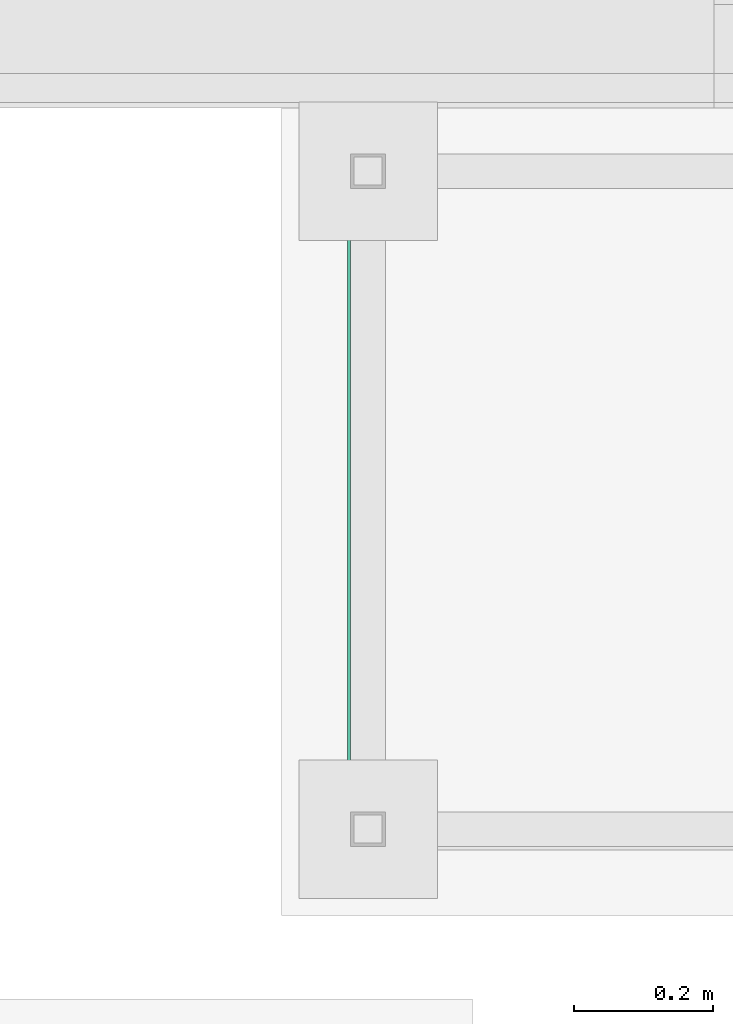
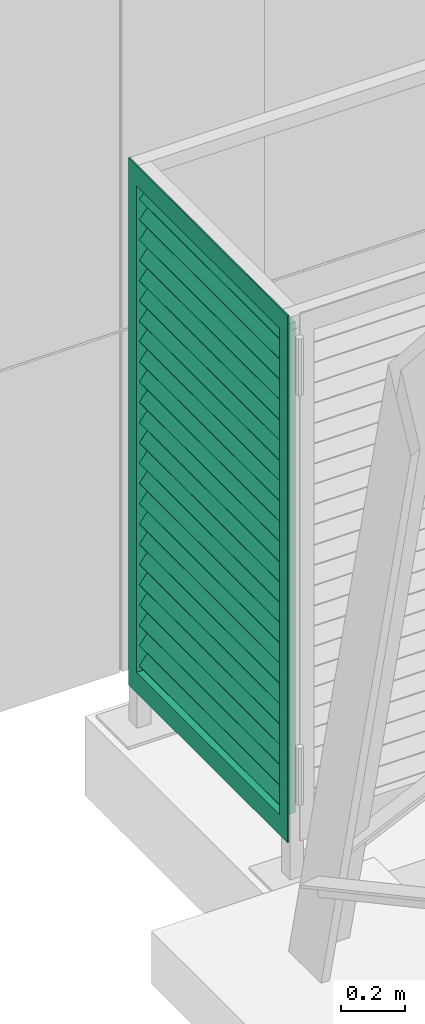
# One storey, part 185 of 418: 1 distribution flow element.
"""IFC2X3 building model written with IfcOpenShell, lengths in millimetres."""

import ifcopenshell
import ifcopenshell.guid

model = None  # the IFC model being written
_history = None  # IfcOwnerHistory: only IFC2X3 demands one
_inside = {}  # id of a spatial element -> (the spatial element, [elements in it])
_under = {}  # id of a project, library or spatial element -> (it, [spatial elements below it])
_declared = {}  # id of a project -> (the project, [libraries it declares])
_typed = {}  # id of a type object -> (the type object, [elements of that type])
_made_of = {}  # id of a material, layer set ... -> (it, [elements and type objects made of it])


def new_model(schema):
    """Start an empty IFC model of exactly this schema.

    Asked for "IFC4X3", IfcOpenShell would pick the latest addendum, in which some entities
    have other attributes; the version numbers below select the first issue.
    IFC2X3 requires an IfcOwnerHistory on every rooted entity: one is made here for all.
    """
    global model, _history
    if schema == "IFC4X3":
        model = ifcopenshell.file(schema_version=(4, 3, 0, 0))
    else:
        model = ifcopenshell.file(schema=schema)
    _inside.clear()
    _under.clear()
    _declared.clear()
    _typed.clear()
    _made_of.clear()
    _history = None
    if model.schema == "IFC2X3":
        org = make("IfcOrganization", Name="unknown")
        user = make(
            "IfcPersonAndOrganization",
            ThePerson=make("IfcPerson", FamilyName="unknown"),
            TheOrganization=org,
        )
        app = make(
            "IfcApplication",
            ApplicationDeveloper=org,
            Version="unknown",
            ApplicationFullName="unknown",
            ApplicationIdentifier="unknown",
        )
        _history = make(
            "IfcOwnerHistory",
            OwningUser=user,
            OwningApplication=app,
            ChangeAction="ADDED",
            CreationDate=0,
        )
    return model


def make(cls, **values):
    """One entity of the class cls with the attributes given. An attribute that is None is left unset."""
    return model.create_entity(
        cls, **{name: value for name, value in values.items() if value is not None}
    )


def entity(cls, *values):
    """Any entity or typed value of the class cls, its attributes in the order of the schema. None: left unset."""
    e = model.create_entity(cls)
    for i, value in enumerate(values):
        if value is not None:
            e[i] = value
    return e


def rooted(cls, **values):
    """An entity with a GlobalId (a new one), such as an element, a storey or a relation."""
    return make(cls, GlobalId=ifcopenshell.guid.new(), OwnerHistory=_history, **values)


def si_unit(unit_type, name, prefix=None):
    """IfcSIUnit, for example si_unit("LENGTHUNIT", "METRE", prefix="MILLI")."""
    return make("IfcSIUnit", UnitType=unit_type, Prefix=prefix, Name=name)


def converted_unit(unit_type, name, factor, base, dimensions=None, offset=None):
    """IfcConversionBasedUnit, such as the inch: factor (a typed value) times the base unit."""
    return make(
        "IfcConversionBasedUnit"
        if offset is None
        else "IfcConversionBasedUnitWithOffset",
        ConversionOffset=offset,
        Dimensions=None
        if dimensions is None
        else entity("IfcDimensionalExponents", *dimensions),
        UnitType=unit_type,
        Name=name,
        ConversionFactor=make(
            "IfcMeasureWithUnit", ValueComponent=factor, UnitComponent=base
        ),
    )


def derived_unit(unit_type, elements):
    """IfcDerivedUnit: a product of units, each with its exponent."""
    return make(
        "IfcDerivedUnit",
        Elements=[
            make("IfcDerivedUnitElement", Unit=unit, Exponent=power)
            for unit, power in elements
        ],
        UnitType=unit_type,
    )


def money_unit(currency):
    """IfcMonetaryUnit."""
    return make("IfcMonetaryUnit", Currency=currency)


def assignment(units):
    """IfcUnitAssignment: the units of a project."""
    return None if units is None else make("IfcUnitAssignment", Units=units)


def point(xyz):
    """IfcCartesianPoint."""
    return None if xyz is None else make("IfcCartesianPoint", Coordinates=xyz)


def direction(xyz):
    """IfcDirection."""
    return None if xyz is None else make("IfcDirection", DirectionRatios=xyz)


def frame(location, z_axis=None, x_axis=None):
    """IfcAxis2Placement3D, a coordinate frame: its origin and axes. An axis left out is left unset."""
    return make(
        "IfcAxis2Placement3D",
        Location=point(location),
        Axis=direction(z_axis),
        RefDirection=direction(x_axis),
    )


def origin_with_axes():
    """The frame at (0, 0, 0) with the z axis (0, 0, 1) and the x axis (1, 0, 0) written out."""
    return frame((0.0, 0.0, 0.0), z_axis=(0.0, 0.0, 1.0), x_axis=(1.0, 0.0, 0.0))


def place(relative_to, where):
    """IfcLocalPlacement: puts the frame where relative to a parent placement (None: the world)."""
    return make(
        "IfcLocalPlacement", PlacementRelTo=relative_to, RelativePlacement=where
    )


def context(
    kind, dimensions, precision=None, world=None, true_north=None, identifier=None
):
    """IfcGeometricRepresentationContext, for example the 3D "Model" context."""
    return make(
        "IfcGeometricRepresentationContext",
        ContextIdentifier=identifier,
        ContextType=kind,
        CoordinateSpaceDimension=dimensions,
        Precision=precision,
        WorldCoordinateSystem=world,
        TrueNorth=true_north,
    )


def subcontext(parent, identifier, kind, view, scale=None):
    """IfcGeometricRepresentationSubContext, for example "Body" below "Model"."""
    return make(
        "IfcGeometricRepresentationSubContext",
        ContextIdentifier=identifier,
        ContextType=kind,
        ParentContext=parent,
        TargetScale=scale,
        TargetView=view,
    )


def project(units=None, contexts=None):
    """IfcProject with its units and contexts."""
    return rooted(
        "IfcProject",
        Name="project",
        RepresentationContexts=contexts,
        UnitsInContext=assignment(units),
    )


def spatial(cls, under=None, at=None, **own):
    """A site, building, storey or space (cls), placed at a placement, below another one or the project."""
    s = rooted(cls, ObjectPlacement=at, **own)
    if under is not None:
        _under.setdefault(under.id(), (under, []))[1].append(s)
    return s


def faces_of(points, faces, orient=None, outer=None):
    """IfcFace entities. A face is a list of loops; a loop is a list of indices into points, from 0.

    orient and outer hold one flag for each loop. By default every Orientation is true, the
    first loop of a face is its IfcFaceOuterBound and the others are IfcFaceBound.
    """
    made = []
    for i, loops in enumerate(faces):
        bounds = []
        for j, loop in enumerate(loops):
            is_outer = j == 0 if outer is None else outer[i][j]
            bounds.append(
                make(
                    "IfcFaceOuterBound" if is_outer else "IfcFaceBound",
                    Bound=make("IfcPolyLoop", Polygon=[points[k] for k in loop]),
                    Orientation=True if orient is None else orient[i][j],
                )
            )
        made.append(make("IfcFace", Bounds=bounds))
    return made


def faceted_brep(points, faces, orient=None, outer=None, voids=None):
    """IfcFacetedBrep: a solid bounded by flat faces; with voids (closed shells), ...WithVoids."""
    shared = [point(p) for p in points]
    hull = make("IfcClosedShell", CfsFaces=faces_of(shared, faces, orient, outer))
    if voids is None:
        return make("IfcFacetedBrep", Outer=hull)
    return make(
        "IfcFacetedBrepWithVoids",
        Outer=hull,
        Voids=[
            make(cls, CfsFaces=faces_of(shared, fs, o, b)) for cls, fs, o, b in voids
        ],
    )


def shape(context_of_items, identifier, shape_type, items):
    """IfcShapeRepresentation: the items that make up one representation, for example the "Body"."""
    return make(
        "IfcShapeRepresentation",
        ContextOfItems=context_of_items,
        RepresentationIdentifier=identifier,
        RepresentationType=shape_type,
        Items=items,
    )


def material(Name=None, Category=None):
    """IfcMaterial."""
    return make("IfcMaterial", Name=Name, Category=Category)


def made_of(thing, what):
    """Note that an element or type object is made of a material, layer set ...; save() writes the relation."""
    if what is not None:
        _made_of.setdefault(what.id(), (what, []))[1].append(thing)
    return thing


def type_object(cls, material=None, **own):
    """A type object (cls), such as IfcWallType, which elements share."""
    return made_of(rooted(cls, **own), material)


def element(
    cls,
    number,
    at=None,
    inside=None,
    cuts=None,
    type_object=None,
    material=None,
    context=None,
    identifier="Body",
    shape_type=None,
    held_by="IfcProductDefinitionShape",
    body=None,
    shapes=None,
    **own,
):
    """One element of the class cls, such as IfcWall. Its Tag is "e" and its number.

    at: its placement. inside: the storey or other place that contains it. cuts: it is an
    opening in that element (IfcRelVoidsElement). A single representation is given by context,
    identifier, shape_type and body (its items); several are given by shapes. held_by: the class
    of the entity that holds the representations. save() writes the other relations.
    """
    e = rooted(cls, Tag="e%d" % number, ObjectPlacement=at, **own)
    if body is not None:
        shapes = [shape(context, identifier, shape_type, body)]
    if shapes is not None:
        e.Representation = make(held_by, Representations=shapes)
    if inside is not None:
        _inside.setdefault(inside.id(), (inside, []))[1].append(e)
    if cuts is not None:
        rooted(
            "IfcRelVoidsElement", RelatingBuildingElement=cuts, RelatedOpeningElement=e
        )
    if type_object is not None:
        _typed.setdefault(type_object.id(), (type_object, []))[1].append(e)
    return made_of(e, material)


def aggregate(whole, parts):
    """IfcRelAggregates: a whole, such as a stair, and the parts it consists of."""
    return rooted("IfcRelAggregates", RelatingObject=whole, RelatedObjects=parts)


def save(model, path):
    """Write the relations noted so far, then the file.

    IfcRelAggregates (storeys below a building ...), IfcRelContainedInSpatialStructure (elements
    in a storey), IfcRelDefinesByType, IfcRelAssociatesMaterial and IfcRelDeclares: one each for
    every whole, place, type object, material and project.
    """
    for whole, parts in _under.values():
        aggregate(whole, parts)
    for where, things in _inside.values():
        rooted(
            "IfcRelContainedInSpatialStructure",
            RelatedElements=things,
            RelatingStructure=where,
        )
    for kind, things in _typed.values():
        rooted("IfcRelDefinesByType", RelatedObjects=things, RelatingType=kind)
    for what, things in _made_of.values():
        rooted("IfcRelAssociatesMaterial", RelatedObjects=things, RelatingMaterial=what)
    for by, libraries in _declared.values():
        rooted("IfcRelDeclares", RelatingContext=by, RelatedDefinitions=libraries)
    model.write(path)


model = new_model("IFC2X3")

# Units and contexts
model_context = context("Model", 3, precision=0.01, world=origin_with_axes(), true_north=direction((0.0, 1.0)))
body_context = subcontext(model_context, "Body", "Model", "MODEL_VIEW")
ifc_project = project(units=[si_unit("LENGTHUNIT", "METRE", prefix="MILLI"), si_unit("AREAUNIT", "SQUARE_METRE"), si_unit("VOLUMEUNIT", "CUBIC_METRE"), converted_unit("PLANEANGLEUNIT", "DEGREE", entity("IfcPlaneAngleMeasure", 0.0174532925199), si_unit("PLANEANGLEUNIT", "RADIAN"), dimensions=[0, 0, 0, 0, 0, 0, 0]), si_unit("SOLIDANGLEUNIT", "STERADIAN"), money_unit("EUR"), converted_unit("TIMEUNIT", "Year", entity("IfcTimeMeasure", 31556926.0), si_unit("TIMEUNIT", "SECOND"), dimensions=[0, 0, 1, 0, 0, 0, 0]), si_unit("MASSUNIT", "GRAM", prefix="KILO"), si_unit("THERMODYNAMICTEMPERATUREUNIT", "DEGREE_CELSIUS"), si_unit("LUMINOUSINTENSITYUNIT", "LUMEN"), si_unit("ENERGYUNIT", "JOULE", prefix="MEGA"), derived_unit("THERMALCONDUCTANCEUNIT", [(si_unit("POWERUNIT", "WATT"), 1), (si_unit("LENGTHUNIT", "METRE"), -1), (si_unit("THERMODYNAMICTEMPERATUREUNIT", "KELVIN"), -1)]), derived_unit("SPECIFICHEATCAPACITYUNIT", [(si_unit("ENERGYUNIT", "JOULE"), 1), (si_unit("MASSUNIT", "GRAM", prefix="KILO"), -1), (si_unit("THERMODYNAMICTEMPERATUREUNIT", "KELVIN"), -1)]), derived_unit("MASSDENSITYUNIT", [(si_unit("MASSUNIT", "GRAM", prefix="KILO"), 1), (si_unit("VOLUMEUNIT", "CUBIC_METRE"), -1)])], contexts=[model_context])

# Site, building, storey
site_placement = place(None, origin_with_axes())
site = spatial("IfcSite", under=ifc_project, at=site_placement, Name="Paldiski mnt 245/1, Tallinn, Harjumaa", CompositionType="COMPLEX")
building_placement = place(site_placement, origin_with_axes())
building = spatial("IfcBuilding", under=site, at=building_placement, Name="RKAS Hoone üldnimetus (kasutust iseloomustav) -> IFC Project Manager -> SOLIBRI", CompositionType="ELEMENT")
storey_placement = place(building_placement, origin_with_axes())
storey = spatial("IfcBuildingStorey", under=building, at=storey_placement, Name="Esimene korrus", CompositionType="ELEMENT", Elevation=0.0)

# Distribution flow element
ifc_material = material(Name="Teras")
valve_type = type_object("IfcValveType", Name="Rest_2", PredefinedType="USERDEFINED")
distribution_flow_element_placement = place(storey_placement, frame((-55819.3791359, -1550.60589207, 0.0), z_axis=(0.0, 0.0, 1.0), x_axis=(0.0, -1.0, 0.0)))
element("IfcDistributionFlowElement", 1, at=distribution_flow_element_placement, inside=storey, type_object=valve_type, material=ifc_material, Name="Trapp", ObjectType="Distribution Flow Element", context=body_context, shape_type="Brep", body=[
    faceted_brep([(-50.0, 0.0, 2000.0), (0.0, 0.0, 2000.0), (0.0, 5.0, 2000.0), (-50.0, 5.0, 2000.0), (-50.0, 0.0, 1923.07692308), (-50.0, 0.0, 76.9230769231), (-50.0, 0.0, 0.0), (0.0, 0.0, 0.0), (0.0, 5.0, 0.0), (-50.0, 5.0, 0.0), (-50.0, 5.0, 76.9230769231), (-50.0, 5.0, 1923.07692308)], [[[0, 1, 2, 3]], [[4, 5, 6, 7, 1, 0]], [[2, 1, 7, 8]], [[3, 2, 8, 9, 10, 11]], [[11, 10, 9, 6, 5, 4, 0, 3]], [[9, 8, 7, 6]]]),
    faceted_brep([(-940.0, 5.0, 0.0), (-50.0, 5.0, 0.0), (-50.0, 0.0, 0.0), (-940.0, 0.0, 0.0), (-940.0, 5.0, 76.9230769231), (-50.0, 5.0, 76.9230769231), (-50.0, 0.0, 76.9230769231), (-940.0, 0.0, 76.9230769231)], [[[0, 1, 2, 3]], [[4, 5, 1, 0]], [[1, 5, 6, 2]], [[3, 2, 6, 7]], [[0, 3, 7, 4]], [[7, 6, 5, 4]]]),
    faceted_brep([(-940.0, 5.0, 1923.07692308), (-940.0, 5.0, 76.9230769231), (-940.0, 5.0, 0.0), (-990.0, 5.0, 0.0), (-990.0, 5.0, 2000.0), (-940.0, 5.0, 2000.0), (-940.0, 0.0, 1923.07692308), (-940.0, 0.0, 76.9230769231), (-940.0, 0.0, 0.0), (-940.0, 0.0, 2000.0), (-990.0, 0.0, 0.0), (-990.0, 0.0, 2000.0)], [[[0, 1, 2, 3, 4, 5]], [[6, 7, 8, 2, 1, 0, 5, 9]], [[8, 10, 3, 2]], [[10, 11, 4, 3]], [[5, 4, 11, 9]], [[9, 11, 10, 8, 7, 6]]]),
    faceted_brep([(-945.0, 5.0, 76.9230769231), (-945.0, 55.0, 76.9230769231), (-940.0, 55.0, 76.9230769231), (-940.0, 5.0, 76.9230769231), (-945.0, 5.0, 1923.07692308), (-945.0, 55.0, 1923.07692308), (-940.0, 55.0, 1923.07692308), (-940.0, 5.0, 1923.07692308)], [[[0, 1, 2, 3]], [[4, 5, 1, 0]], [[5, 6, 2, 1]], [[3, 2, 6, 7]], [[4, 0, 3, 7]], [[7, 6, 5, 4]]]),
    faceted_brep([(-45.0, 5.0, 1923.07692308), (-45.0, 55.0, 1923.07692308), (-50.0, 55.0, 1923.07692308), (-50.0, 5.0, 1923.07692308), (-45.0, 5.0, 76.9230769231), (-45.0, 55.0, 76.9230769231), (-50.0, 55.0, 76.9230769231), (-50.0, 5.0, 76.9230769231)], [[[0, 1, 2, 3]], [[4, 5, 1, 0]], [[5, 6, 2, 1]], [[3, 2, 6, 7]], [[4, 0, 3, 7]], [[7, 6, 5, 4]]]),
    faceted_brep([(-940.0, 5.0, 1923.07692308), (-50.0, 5.0, 1923.07692308), (-50.0, 0.0, 1923.07692308), (-940.0, 0.0, 1923.07692308), (-940.0, 5.0, 2000.0), (-50.0, 5.0, 2000.0), (-50.0, 0.0, 2000.0), (-940.0, 0.0, 2000.0)], [[[0, 1, 2, 3]], [[4, 5, 1, 0]], [[1, 5, 6, 2]], [[3, 2, 6, 7]], [[0, 3, 7, 4]], [[7, 6, 5, 4]]]),
    faceted_brep([(-45.0, 5.0, 69.2307692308), (-45.0, 5.0, 76.9230769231), (-945.0, 5.0, 76.9230769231), (-945.0, 5.0, 69.2307692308), (-45.0, 55.0, 69.2307692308), (-45.0, 55.0, 76.9230769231), (-945.0, 55.0, 76.9230769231), (-945.0, 55.0, 69.2307692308)], [[[0, 1, 2, 3]], [[4, 5, 1, 0]], [[1, 5, 6, 2]], [[3, 2, 6, 7]], [[0, 3, 7, 4]], [[7, 6, 5, 4]]]),
    faceted_brep([(-45.0, 5.0, 1923.07692308), (-45.0, 5.0, 1930.76923077), (-945.0, 5.0, 1930.76923077), (-945.0, 5.0, 1923.07692308), (-45.0, 55.0, 1923.07692308), (-45.0, 55.0, 1930.76923077), (-945.0, 55.0, 1930.76923077), (-945.0, 55.0, 1923.07692308)], [[[0, 1, 2, 3]], [[4, 5, 1, 0]], [[1, 5, 6, 2]], [[3, 2, 6, 7]], [[0, 3, 7, 4]], [[7, 6, 5, 4]]]),
    faceted_brep([(-940.0, 52.3650491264, 141.906873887), (-50.0, 52.3650491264, 141.906873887), (-50.0, 14.0628269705, 92.4616731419), (-940.0, 14.0628269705, 92.4616731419), (-940.0, 49.151111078, 147.799523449), (-50.0, 49.151111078, 147.799523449), (-50.0, 10.848888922, 98.3543227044), (-940.0, 10.848888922, 98.3543227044)], [[[0, 1, 2, 3]], [[4, 5, 1, 0]], [[1, 5, 6, 2]], [[3, 2, 6, 7]], [[0, 3, 7, 4]], [[7, 6, 5, 4]]]),
    faceted_brep([(-940.0, 52.3650491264, 218.82995081), (-50.0, 52.3650491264, 218.82995081), (-50.0, 14.0628269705, 169.384750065), (-940.0, 14.0628269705, 169.384750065), (-940.0, 49.151111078, 224.722600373), (-50.0, 49.151111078, 224.722600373), (-50.0, 10.848888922, 175.277399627), (-940.0, 10.848888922, 175.277399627)], [[[0, 1, 2, 3]], [[4, 5, 1, 0]], [[1, 5, 6, 2]], [[3, 2, 6, 7]], [[0, 3, 7, 4]], [[7, 6, 5, 4]]]),
    faceted_brep([(-940.0, 52.3650491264, 295.753027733), (-50.0, 52.3650491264, 295.753027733), (-50.0, 14.0628269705, 246.307826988), (-940.0, 14.0628269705, 246.307826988), (-940.0, 49.151111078, 301.645677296), (-50.0, 49.151111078, 301.645677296), (-50.0, 10.848888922, 252.200476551), (-940.0, 10.848888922, 252.200476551)], [[[0, 1, 2, 3]], [[4, 5, 1, 0]], [[1, 5, 6, 2]], [[3, 2, 6, 7]], [[0, 3, 7, 4]], [[7, 6, 5, 4]]]),
    faceted_brep([(-940.0, 52.3650491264, 372.676104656), (-50.0, 52.3650491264, 372.676104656), (-50.0, 14.0628269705, 323.230903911), (-940.0, 14.0628269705, 323.230903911), (-940.0, 49.151111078, 378.568754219), (-50.0, 49.151111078, 378.568754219), (-50.0, 10.848888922, 329.123553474), (-940.0, 10.848888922, 329.123553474)], [[[0, 1, 2, 3]], [[4, 5, 1, 0]], [[1, 5, 6, 2]], [[3, 2, 6, 7]], [[0, 3, 7, 4]], [[7, 6, 5, 4]]]),
    faceted_brep([(-940.0, 52.3650491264, 449.599181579), (-50.0, 52.3650491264, 449.599181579), (-50.0, 14.0628269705, 400.153980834), (-940.0, 14.0628269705, 400.153980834), (-940.0, 49.151111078, 455.491831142), (-50.0, 49.151111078, 455.491831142), (-50.0, 10.848888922, 406.046630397), (-940.0, 10.848888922, 406.046630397)], [[[0, 1, 2, 3]], [[4, 5, 1, 0]], [[1, 5, 6, 2]], [[3, 2, 6, 7]], [[0, 3, 7, 4]], [[7, 6, 5, 4]]]),
    faceted_brep([(-940.0, 52.3650491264, 526.522258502), (-50.0, 52.3650491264, 526.522258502), (-50.0, 14.0628269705, 477.077057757), (-940.0, 14.0628269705, 477.077057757), (-940.0, 49.151111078, 532.414908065), (-50.0, 49.151111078, 532.414908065), (-50.0, 10.848888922, 482.96970732), (-940.0, 10.848888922, 482.96970732)], [[[0, 1, 2, 3]], [[4, 5, 1, 0]], [[1, 5, 6, 2]], [[3, 2, 6, 7]], [[0, 3, 7, 4]], [[7, 6, 5, 4]]]),
    faceted_brep([(-940.0, 52.3650491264, 603.445335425), (-50.0, 52.3650491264, 603.445335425), (-50.0, 14.0628269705, 554.00013468), (-940.0, 14.0628269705, 554.00013468), (-940.0, 49.151111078, 609.337984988), (-50.0, 49.151111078, 609.337984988), (-50.0, 10.848888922, 559.892784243), (-940.0, 10.848888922, 559.892784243)], [[[0, 1, 2, 3]], [[4, 5, 1, 0]], [[1, 5, 6, 2]], [[3, 2, 6, 7]], [[0, 3, 7, 4]], [[7, 6, 5, 4]]]),
    faceted_brep([(-940.0, 52.3650491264, 680.368412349), (-50.0, 52.3650491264, 680.368412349), (-50.0, 14.0628269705, 630.923211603), (-940.0, 14.0628269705, 630.923211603), (-940.0, 49.151111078, 686.261061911), (-50.0, 49.151111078, 686.261061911), (-50.0, 10.848888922, 636.815861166), (-940.0, 10.848888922, 636.815861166)], [[[0, 1, 2, 3]], [[4, 5, 1, 0]], [[1, 5, 6, 2]], [[3, 2, 6, 7]], [[0, 3, 7, 4]], [[7, 6, 5, 4]]]),
    faceted_brep([(-940.0, 52.3650491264, 757.291489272), (-50.0, 52.3650491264, 757.291489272), (-50.0, 14.0628269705, 707.846288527), (-940.0, 14.0628269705, 707.846288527), (-940.0, 49.151111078, 763.184138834), (-50.0, 49.151111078, 763.184138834), (-50.0, 10.848888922, 713.738938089), (-940.0, 10.848888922, 713.738938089)], [[[0, 1, 2, 3]], [[4, 5, 1, 0]], [[1, 5, 6, 2]], [[3, 2, 6, 7]], [[0, 3, 7, 4]], [[7, 6, 5, 4]]]),
    faceted_brep([(-940.0, 52.3650491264, 834.214566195), (-50.0, 52.3650491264, 834.214566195), (-50.0, 14.0628269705, 784.76936545), (-940.0, 14.0628269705, 784.76936545), (-940.0, 49.151111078, 840.107215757), (-50.0, 49.151111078, 840.107215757), (-50.0, 10.848888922, 790.662015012), (-940.0, 10.848888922, 790.662015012)], [[[0, 1, 2, 3]], [[4, 5, 1, 0]], [[1, 5, 6, 2]], [[3, 2, 6, 7]], [[0, 3, 7, 4]], [[7, 6, 5, 4]]]),
    faceted_brep([(-940.0, 52.3650491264, 911.137643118), (-50.0, 52.3650491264, 911.137643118), (-50.0, 14.0628269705, 861.692442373), (-940.0, 14.0628269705, 861.692442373), (-940.0, 49.151111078, 917.03029268), (-50.0, 49.151111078, 917.03029268), (-50.0, 10.848888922, 867.585091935), (-940.0, 10.848888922, 867.585091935)], [[[0, 1, 2, 3]], [[4, 5, 1, 0]], [[1, 5, 6, 2]], [[3, 2, 6, 7]], [[0, 3, 7, 4]], [[7, 6, 5, 4]]]),
    faceted_brep([(-940.0, 52.3650491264, 988.060720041), (-50.0, 52.3650491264, 988.060720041), (-50.0, 14.0628269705, 938.615519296), (-940.0, 14.0628269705, 938.615519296), (-940.0, 49.151111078, 993.953369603), (-50.0, 49.151111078, 993.953369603), (-50.0, 10.848888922, 944.508168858), (-940.0, 10.848888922, 944.508168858)], [[[0, 1, 2, 3]], [[4, 5, 1, 0]], [[1, 5, 6, 2]], [[3, 2, 6, 7]], [[0, 3, 7, 4]], [[7, 6, 5, 4]]]),
    faceted_brep([(-940.0, 52.3650491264, 1064.98379696), (-50.0, 52.3650491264, 1064.98379696), (-50.0, 14.0628269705, 1015.53859622), (-940.0, 14.0628269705, 1015.53859622), (-940.0, 49.151111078, 1070.87644653), (-50.0, 49.151111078, 1070.87644653), (-50.0, 10.848888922, 1021.43124578), (-940.0, 10.848888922, 1021.43124578)], [[[0, 1, 2, 3]], [[4, 5, 1, 0]], [[1, 5, 6, 2]], [[3, 2, 6, 7]], [[0, 3, 7, 4]], [[7, 6, 5, 4]]]),
    faceted_brep([(-940.0, 52.3650491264, 1141.90687389), (-50.0, 52.3650491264, 1141.90687389), (-50.0, 14.0628269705, 1092.46167314), (-940.0, 14.0628269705, 1092.46167314), (-940.0, 49.151111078, 1147.79952345), (-50.0, 49.151111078, 1147.79952345), (-50.0, 10.848888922, 1098.3543227), (-940.0, 10.848888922, 1098.3543227)], [[[0, 1, 2, 3]], [[4, 5, 1, 0]], [[1, 5, 6, 2]], [[3, 2, 6, 7]], [[0, 3, 7, 4]], [[7, 6, 5, 4]]]),
    faceted_brep([(-940.0, 52.3650491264, 1218.82995081), (-50.0, 52.3650491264, 1218.82995081), (-50.0, 14.0628269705, 1169.38475006), (-940.0, 14.0628269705, 1169.38475006), (-940.0, 49.151111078, 1224.72260037), (-50.0, 49.151111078, 1224.72260037), (-50.0, 10.848888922, 1175.27739963), (-940.0, 10.848888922, 1175.27739963)], [[[0, 1, 2, 3]], [[4, 5, 1, 0]], [[1, 5, 6, 2]], [[3, 2, 6, 7]], [[0, 3, 7, 4]], [[7, 6, 5, 4]]]),
    faceted_brep([(-940.0, 52.3650491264, 1295.75302773), (-50.0, 52.3650491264, 1295.75302773), (-50.0, 14.0628269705, 1246.30782699), (-940.0, 14.0628269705, 1246.30782699), (-940.0, 49.151111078, 1301.6456773), (-50.0, 49.151111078, 1301.6456773), (-50.0, 10.848888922, 1252.20047655), (-940.0, 10.848888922, 1252.20047655)], [[[0, 1, 2, 3]], [[4, 5, 1, 0]], [[1, 5, 6, 2]], [[3, 2, 6, 7]], [[0, 3, 7, 4]], [[7, 6, 5, 4]]]),
    faceted_brep([(-940.0, 52.3650491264, 1372.67610466), (-50.0, 52.3650491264, 1372.67610466), (-50.0, 14.0628269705, 1323.23090391), (-940.0, 14.0628269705, 1323.23090391), (-940.0, 49.151111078, 1378.56875422), (-50.0, 49.151111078, 1378.56875422), (-50.0, 10.848888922, 1329.12355347), (-940.0, 10.848888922, 1329.12355347)], [[[0, 1, 2, 3]], [[4, 5, 1, 0]], [[1, 5, 6, 2]], [[3, 2, 6, 7]], [[0, 3, 7, 4]], [[7, 6, 5, 4]]]),
    faceted_brep([(-940.0, 52.3650491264, 1449.59918158), (-50.0, 52.3650491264, 1449.59918158), (-50.0, 14.0628269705, 1400.15398083), (-940.0, 14.0628269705, 1400.15398083), (-940.0, 49.151111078, 1455.49183114), (-50.0, 49.151111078, 1455.49183114), (-50.0, 10.848888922, 1406.0466304), (-940.0, 10.848888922, 1406.0466304)], [[[0, 1, 2, 3]], [[4, 5, 1, 0]], [[1, 5, 6, 2]], [[3, 2, 6, 7]], [[0, 3, 7, 4]], [[7, 6, 5, 4]]]),
    faceted_brep([(-940.0, 52.3650491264, 1526.5222585), (-50.0, 52.3650491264, 1526.5222585), (-50.0, 14.0628269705, 1477.07705776), (-940.0, 14.0628269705, 1477.07705776), (-940.0, 49.151111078, 1532.41490806), (-50.0, 49.151111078, 1532.41490806), (-50.0, 10.848888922, 1482.96970732), (-940.0, 10.848888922, 1482.96970732)], [[[0, 1, 2, 3]], [[4, 5, 1, 0]], [[1, 5, 6, 2]], [[3, 2, 6, 7]], [[0, 3, 7, 4]], [[7, 6, 5, 4]]]),
    faceted_brep([(-940.0, 52.3650491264, 1603.44533543), (-50.0, 52.3650491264, 1603.44533543), (-50.0, 14.0628269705, 1554.00013468), (-940.0, 14.0628269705, 1554.00013468), (-940.0, 49.151111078, 1609.33798499), (-50.0, 49.151111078, 1609.33798499), (-50.0, 10.848888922, 1559.89278424), (-940.0, 10.848888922, 1559.89278424)], [[[0, 1, 2, 3]], [[4, 5, 1, 0]], [[1, 5, 6, 2]], [[3, 2, 6, 7]], [[0, 3, 7, 4]], [[7, 6, 5, 4]]]),
    faceted_brep([(-940.0, 52.3650491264, 1680.36841235), (-50.0, 52.3650491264, 1680.36841235), (-50.0, 14.0628269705, 1630.9232116), (-940.0, 14.0628269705, 1630.9232116), (-940.0, 49.151111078, 1686.26106191), (-50.0, 49.151111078, 1686.26106191), (-50.0, 10.848888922, 1636.81586117), (-940.0, 10.848888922, 1636.81586117)], [[[0, 1, 2, 3]], [[4, 5, 1, 0]], [[1, 5, 6, 2]], [[3, 2, 6, 7]], [[0, 3, 7, 4]], [[7, 6, 5, 4]]]),
    faceted_brep([(-940.0, 52.3650491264, 1757.29148927), (-50.0, 52.3650491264, 1757.29148927), (-50.0, 14.0628269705, 1707.84628853), (-940.0, 14.0628269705, 1707.84628853), (-940.0, 49.151111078, 1763.18413883), (-50.0, 49.151111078, 1763.18413883), (-50.0, 10.848888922, 1713.73893809), (-940.0, 10.848888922, 1713.73893809)], [[[0, 1, 2, 3]], [[4, 5, 1, 0]], [[1, 5, 6, 2]], [[3, 2, 6, 7]], [[0, 3, 7, 4]], [[7, 6, 5, 4]]]),
    faceted_brep([(-940.0, 52.3650491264, 1834.21456619), (-50.0, 52.3650491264, 1834.21456619), (-50.0, 14.0628269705, 1784.76936545), (-940.0, 14.0628269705, 1784.76936545), (-940.0, 49.151111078, 1840.10721576), (-50.0, 49.151111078, 1840.10721576), (-50.0, 10.848888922, 1790.66201501), (-940.0, 10.848888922, 1790.66201501)], [[[0, 1, 2, 3]], [[4, 5, 1, 0]], [[1, 5, 6, 2]], [[3, 2, 6, 7]], [[0, 3, 7, 4]], [[7, 6, 5, 4]]]),
    faceted_brep([(-940.0, 52.3650491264, 1911.13764312), (-50.0, 52.3650491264, 1911.13764312), (-50.0, 14.0628269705, 1861.69244237), (-940.0, 14.0628269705, 1861.69244237), (-940.0, 49.151111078, 1917.03029268), (-50.0, 49.151111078, 1917.03029268), (-50.0, 10.848888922, 1867.58509194), (-940.0, 10.848888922, 1867.58509194)], [[[0, 1, 2, 3]], [[4, 5, 1, 0]], [[1, 5, 6, 2]], [[3, 2, 6, 7]], [[0, 3, 7, 4]], [[7, 6, 5, 4]]]),
])

save(model, "model.ifc")
